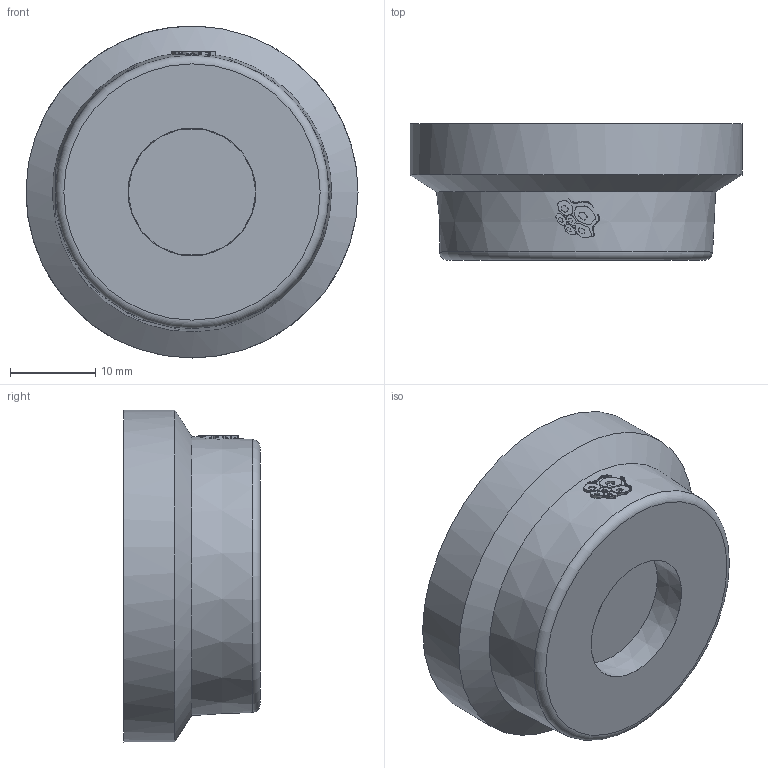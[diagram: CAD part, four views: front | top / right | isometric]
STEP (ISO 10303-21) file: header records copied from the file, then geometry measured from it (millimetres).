
FILE_DESCRIPTION(('STEP AP203'), '1');
FILE_NAME('3D_404-015-40_1', '', ('UNSPECIFIED'), ('UNSPECIFIED'), 'C3D Converter', 'C3D Toolkit', '');
FILE_SCHEMA(('CONFIG_CONTROL_DESIGN'));
Length unit declared in the file: millimetre
Bounding box: 39 x 16 x 39 mm (x, y, z)
Surface area: 6781.2 mm2 (no closed solid volume)
Topology: 0 solids, 1 shells, 922 faces, 2720 edges, 1811 vertices
Faces by surface type: plane 890, cylinder 18, cone 10, torus 3, bspline 1
Full cylindrical faces by diameter (mm): 7.914 x1, 19 x1, 20 x1, 28.5 x1, 39 x1
Entity records: 41159 total; most frequent: CARTESIAN_POINT 10939, ORIENTED_EDGE 5407, DIRECTION 3730, EDGE_CURVE 2706, VERTEX_POINT 1810, LINE 1782, VECTOR 1782, AXIS2_PLACEMENT_3D 974
